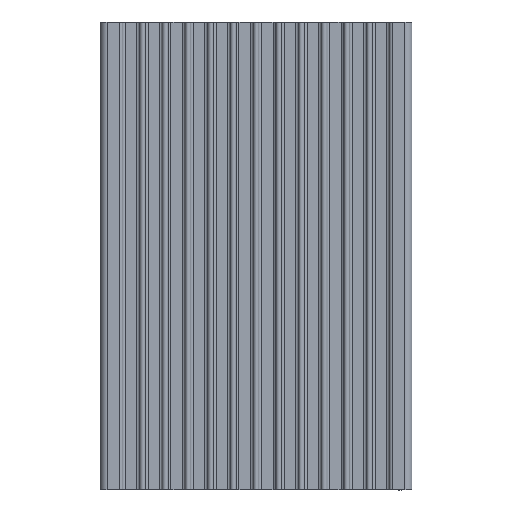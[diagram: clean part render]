
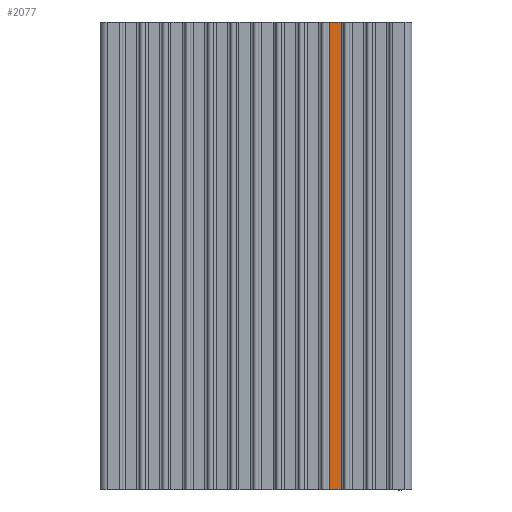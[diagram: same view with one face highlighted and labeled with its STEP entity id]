
A CAD part, top view. The second image highlights one B-rep face of the part: STEP entity #2077.
In plain terms, the highlighted planar face has unit normal (0, 0, 1).
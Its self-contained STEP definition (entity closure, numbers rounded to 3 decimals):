
#174 = VECTOR ( 'NONE', #4782, 1000. ) ;
#289 = FACE_OUTER_BOUND ( 'NONE', #585, .T. ) ;
#402 = CARTESIAN_POINT ( 'NONE',  ( 26., 165., 11.25 ) ) ;
#585 = EDGE_LOOP ( 'NONE', ( #3145, #2003, #4302, #901 ) ) ;
#654 = DIRECTION ( 'NONE',  ( 1., 0., 0. ) ) ;
#745 = EDGE_CURVE ( 'NONE', #1297, #3257, #2479, .T. ) ;
#763 = DIRECTION ( 'NONE',  ( -1., 0., 0. ) ) ;
#901 = ORIENTED_EDGE ( 'NONE', *, *, #4723, .T. ) ;
#966 = VERTEX_POINT ( 'NONE', #3173 ) ;
#1010 = LINE ( 'NONE', #3104, #174 ) ;
#1091 = CARTESIAN_POINT ( 'NONE',  ( 30., 0., 11.25 ) ) ;
#1297 = VERTEX_POINT ( 'NONE', #4763 ) ;
#1447 = VECTOR ( 'NONE', #1628, 1000. ) ;
#1529 = EDGE_CURVE ( 'NONE', #2167, #966, #2409, .T. ) ;
#1540 = CARTESIAN_POINT ( 'NONE',  ( 30., 165., 11.25 ) ) ;
#1584 = CARTESIAN_POINT ( 'NONE',  ( 30., 165., 11.25 ) ) ;
#1613 = VECTOR ( 'NONE', #3705, 1000. ) ;
#1628 = DIRECTION ( 'NONE',  ( 0., -1., 0. ) ) ;
#2003 = ORIENTED_EDGE ( 'NONE', *, *, #2485, .F. ) ;
#2054 = CARTESIAN_POINT ( 'NONE',  ( 30., 0., 11.25 ) ) ;
#2077 = ADVANCED_FACE ( 'NONE', ( #289 ), #5342, .F. ) ;
#2167 = VERTEX_POINT ( 'NONE', #402 ) ;
#2313 = VECTOR ( 'NONE', #654, 1000. ) ;
#2409 = LINE ( 'NONE', #3158, #2313 ) ;
#2479 = LINE ( 'NONE', #2054, #1613 ) ;
#2485 = EDGE_CURVE ( 'NONE', #966, #3257, #3197, .T. ) ;
#3104 = CARTESIAN_POINT ( 'NONE',  ( 26., 165., 11.25 ) ) ;
#3145 = ORIENTED_EDGE ( 'NONE', *, *, #745, .T. ) ;
#3158 = CARTESIAN_POINT ( 'NONE',  ( 30., 165., 11.25 ) ) ;
#3173 = CARTESIAN_POINT ( 'NONE',  ( 30., 165., 11.25 ) ) ;
#3197 = LINE ( 'NONE', #1540, #1447 ) ;
#3243 = DIRECTION ( 'NONE',  ( 0., 0., -1. ) ) ;
#3257 = VERTEX_POINT ( 'NONE', #1091 ) ;
#3705 = DIRECTION ( 'NONE',  ( 1., 0., 0. ) ) ;
#4302 = ORIENTED_EDGE ( 'NONE', *, *, #1529, .F. ) ;
#4662 = AXIS2_PLACEMENT_3D ( 'NONE', #1584, #3243, #763 ) ;
#4723 = EDGE_CURVE ( 'NONE', #2167, #1297, #1010, .T. ) ;
#4763 = CARTESIAN_POINT ( 'NONE',  ( 26., 0., 11.25 ) ) ;
#4782 = DIRECTION ( 'NONE',  ( 0., -1., 0. ) ) ;
#5342 = PLANE ( 'NONE',  #4662 ) ;
